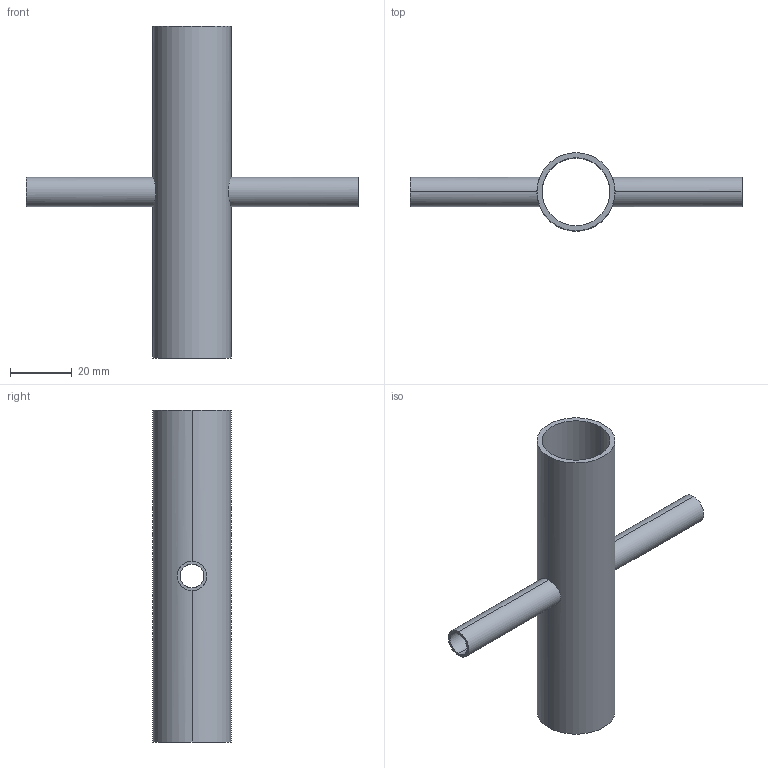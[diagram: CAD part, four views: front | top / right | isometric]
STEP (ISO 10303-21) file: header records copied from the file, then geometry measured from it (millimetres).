
FILE_DESCRIPTION (( 'STEP AP214' ), '1' );
FILE_NAME ('TE9RWWWW6L1.0x.375-...STEP', '2016-05-22T04:12:31', ( 'eran' ), ( '' ), 'SwSTEP 2.0', 'SolidWorks 2016', '' );
FILE_SCHEMA (( 'AUTOMOTIVE_DESIGN' ));
Length unit declared in the file: millimetre
Products named in the file (1): TE9RWWWW6L1.0x.375-..
Bounding box: 107.95 x 25.4 x 107.95 mm (x, y, z)
Volume: 15148.9 mm3; surface area: 20765.9 mm2
Topology: 1 solids, 1 shells, 16 faces, 40 edges, 24 vertices
Faces by surface type: cylinder 12, plane 4
Entity records: 770 total; most frequent: CARTESIAN_POINT 345, DIRECTION 82, ORIENTED_EDGE 80, EDGE_CURVE 40, AXIS2_PLACEMENT_3D 33, VERTEX_POINT 24, EDGE_LOOP 20, FACE_OUTER_BOUND 16
